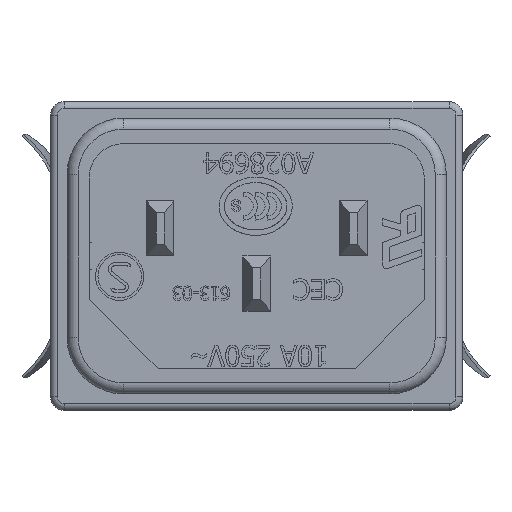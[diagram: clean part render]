
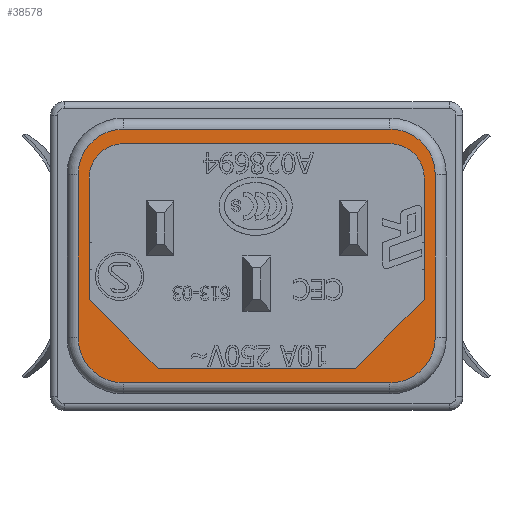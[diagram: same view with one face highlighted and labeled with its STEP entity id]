
A CAD part, front view. The second image highlights one B-rep face of the part: STEP entity #38578.
In plain terms, the highlighted planar face has unit normal (0, -1, 0).
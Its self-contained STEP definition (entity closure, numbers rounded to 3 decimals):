
#104=FACE_BOUND('',#4505,.T.);
#1640=CIRCLE('',#40712,3.3);
#1643=CIRCLE('',#40717,3.3);
#1647=CIRCLE('',#40723,3.3);
#1651=CIRCLE('',#40729,3.3);
#1653=CIRCLE('',#40737,2.5);
#1654=CIRCLE('',#40738,2.5);
#2505=FACE_OUTER_BOUND('',#4504,.T.);
#4504=EDGE_LOOP('',(#27548,#27549,#27550,#27551,#27552,#27553,#27554,#27555));
#4505=EDGE_LOOP('',(#27556,#27557,#27558,#27559,#27560,#27561,#27562,#27563));
#7551=LINE('',#55280,#11917);
#7553=LINE('',#55292,#11919);
#7555=LINE('',#55304,#11921);
#7557=LINE('',#55313,#11923);
#7564=LINE('',#55329,#11930);
#7565=LINE('',#55333,#11931);
#7566=LINE('',#55335,#11932);
#7567=LINE('',#55337,#11933);
#7568=LINE('',#55339,#11934);
#7569=LINE('',#55340,#11935);
#11917=VECTOR('',#45309,10.);
#11919=VECTOR('',#45323,10.);
#11921=VECTOR('',#45337,10.);
#11923=VECTOR('',#45349,10.);
#11930=VECTOR('',#45368,10.);
#11931=VECTOR('',#45371,10.);
#11932=VECTOR('',#45372,10.);
#11933=VECTOR('',#45373,10.);
#11934=VECTOR('',#45374,10.);
#11935=VECTOR('',#45375,10.);
#15904=VERTEX_POINT('',#55268);
#15907=VERTEX_POINT('',#55273);
#15909=VERTEX_POINT('',#55278);
#15911=VERTEX_POINT('',#55284);
#15913=VERTEX_POINT('',#55290);
#15915=VERTEX_POINT('',#55296);
#15917=VERTEX_POINT('',#55302);
#15919=VERTEX_POINT('',#55308);
#15920=VERTEX_POINT('',#55325);
#15921=VERTEX_POINT('',#55326);
#15922=VERTEX_POINT('',#55328);
#15923=VERTEX_POINT('',#55330);
#15924=VERTEX_POINT('',#55332);
#15925=VERTEX_POINT('',#55334);
#15926=VERTEX_POINT('',#55336);
#15927=VERTEX_POINT('',#55338);
#20184=EDGE_CURVE('',#15907,#15904,#1640,.T.);
#20186=EDGE_CURVE('',#15909,#15907,#7551,.T.);
#20189=EDGE_CURVE('',#15911,#15909,#1643,.T.);
#20192=EDGE_CURVE('',#15913,#15911,#7553,.T.);
#20195=EDGE_CURVE('',#15915,#15913,#1647,.T.);
#20198=EDGE_CURVE('',#15917,#15915,#7555,.T.);
#20201=EDGE_CURVE('',#15919,#15917,#1651,.T.);
#20203=EDGE_CURVE('',#15904,#15919,#7557,.T.);
#20210=EDGE_CURVE('',#15920,#15921,#1653,.T.);
#20211=EDGE_CURVE('',#15921,#15922,#7564,.T.);
#20212=EDGE_CURVE('',#15922,#15923,#1654,.T.);
#20213=EDGE_CURVE('',#15923,#15924,#7565,.T.);
#20214=EDGE_CURVE('',#15924,#15925,#7566,.T.);
#20215=EDGE_CURVE('',#15925,#15926,#7567,.T.);
#20216=EDGE_CURVE('',#15926,#15927,#7568,.T.);
#20217=EDGE_CURVE('',#15927,#15920,#7569,.T.);
#27548=ORIENTED_EDGE('',*,*,#20184,.F.);
#27549=ORIENTED_EDGE('',*,*,#20186,.F.);
#27550=ORIENTED_EDGE('',*,*,#20189,.F.);
#27551=ORIENTED_EDGE('',*,*,#20192,.F.);
#27552=ORIENTED_EDGE('',*,*,#20195,.F.);
#27553=ORIENTED_EDGE('',*,*,#20198,.F.);
#27554=ORIENTED_EDGE('',*,*,#20201,.F.);
#27555=ORIENTED_EDGE('',*,*,#20203,.F.);
#27556=ORIENTED_EDGE('',*,*,#20210,.T.);
#27557=ORIENTED_EDGE('',*,*,#20211,.T.);
#27558=ORIENTED_EDGE('',*,*,#20212,.T.);
#27559=ORIENTED_EDGE('',*,*,#20213,.T.);
#27560=ORIENTED_EDGE('',*,*,#20214,.T.);
#27561=ORIENTED_EDGE('',*,*,#20215,.T.);
#27562=ORIENTED_EDGE('',*,*,#20216,.T.);
#27563=ORIENTED_EDGE('',*,*,#20217,.T.);
#35064=PLANE('',#40736);
#38578=ADVANCED_FACE('',(#2505,#104),#35064,.T.);
#40712=AXIS2_PLACEMENT_3D('',#55275,#45303,#45304);
#40717=AXIS2_PLACEMENT_3D('',#55286,#45315,#45316);
#40723=AXIS2_PLACEMENT_3D('',#55298,#45329,#45330);
#40729=AXIS2_PLACEMENT_3D('',#55310,#45343,#45344);
#40736=AXIS2_PLACEMENT_3D('',#55324,#45364,#45365);
#40737=AXIS2_PLACEMENT_3D('',#55327,#45366,#45367);
#40738=AXIS2_PLACEMENT_3D('',#55331,#45369,#45370);
#45303=DIRECTION('center_axis',(0.,1.,0.));
#45304=DIRECTION('ref_axis',(0.707,0.,-0.707));
#45309=DIRECTION('',(0.,0.,-1.));
#45315=DIRECTION('center_axis',(0.,1.,0.));
#45316=DIRECTION('ref_axis',(0.707,0.,0.707));
#45323=DIRECTION('',(1.,0.,0.));
#45329=DIRECTION('center_axis',(0.,1.,0.));
#45330=DIRECTION('ref_axis',(-0.707,0.,0.707));
#45337=DIRECTION('',(0.,0.,1.));
#45343=DIRECTION('center_axis',(0.,1.,0.));
#45344=DIRECTION('ref_axis',(-0.707,0.,-0.707));
#45349=DIRECTION('',(-1.,0.,0.));
#45364=DIRECTION('center_axis',(0.,-1.,0.));
#45365=DIRECTION('ref_axis',(1.,0.,0.));
#45366=DIRECTION('center_axis',(0.,1.,0.));
#45367=DIRECTION('ref_axis',(0.,0.,
-1.));
#45368=DIRECTION('',(1.,0.,0.));
#45369=DIRECTION('center_axis',(0.,1.,0.));
#45370=DIRECTION('ref_axis',(-1.,0.,0.));
#45371=DIRECTION('',(0.,0.,-1.));
#45372=DIRECTION('',(-0.707,0.,-0.707));
#45373=DIRECTION('',(-1.,0.,0.));
#45374=DIRECTION('',(-0.707,0.,0.707));
#45375=DIRECTION('',(0.,0.,1.));
#55268=CARTESIAN_POINT('',(-0.403,-21.868,-9.032));
#55273=CARTESIAN_POINT('',(2.897,-21.868,-5.732));
#55275=CARTESIAN_POINT('Origin',(-0.403,-21.868,-5.732));
#55278=CARTESIAN_POINT('',(2.897,-21.868,6.068));
#55280=CARTESIAN_POINT('',(2.897,-21.868,-2.782));
#55284=CARTESIAN_POINT('',(-0.403,-21.868,9.368));
#55286=CARTESIAN_POINT('Origin',(-0.403,-21.868,6.068));
#55290=CARTESIAN_POINT('',(-19.703,-21.868,9.368));
#55292=CARTESIAN_POINT('',(-5.228,-21.868,9.368));
#55296=CARTESIAN_POINT('',(-23.003,-21.868,6.068));
#55298=CARTESIAN_POINT('Origin',(-19.703,-21.868,6.068));
#55302=CARTESIAN_POINT('',(-23.003,-21.868,-5.732));
#55304=CARTESIAN_POINT('',(-23.003,-21.868,3.118));
#55308=CARTESIAN_POINT('',(-19.703,-21.868,-9.032));
#55310=CARTESIAN_POINT('Origin',(-19.703,-21.868,-5.732));
#55313=CARTESIAN_POINT('',(-14.878,-21.868,-9.032));
#55324=CARTESIAN_POINT('Origin',(-10.053,-21.868,0.168));
#55325=CARTESIAN_POINT('',(-22.203,-21.868,5.818));
#55326=CARTESIAN_POINT('',(-19.703,-21.868,8.318));
#55327=CARTESIAN_POINT('Origin',(-19.703,-21.868,5.818));
#55328=CARTESIAN_POINT('',(-0.403,-21.868,8.318));
#55329=CARTESIAN_POINT('',(-14.878,-21.868,8.318));
#55330=CARTESIAN_POINT('',(2.097,-21.868,5.818));
#55331=CARTESIAN_POINT('Origin',(-0.403,-21.868,5.818));
#55332=CARTESIAN_POINT('',(2.097,-21.868,-2.982));
#55333=CARTESIAN_POINT('',(2.097,-21.868,2.993));
#55334=CARTESIAN_POINT('',(-2.903,-21.868,-7.982));
#55335=CARTESIAN_POINT('',(-0.153,-21.868,-5.232));
#55336=CARTESIAN_POINT('',(-17.203,-21.868,-7.982));
#55337=CARTESIAN_POINT('',(-6.478,-21.868,-7.982));
#55338=CARTESIAN_POINT('',(-22.203,-21.868,-2.982));
#55339=CARTESIAN_POINT('',(-17.453,-21.868,-7.732));
#55340=CARTESIAN_POINT('',(-22.203,-21.868,-1.407));
